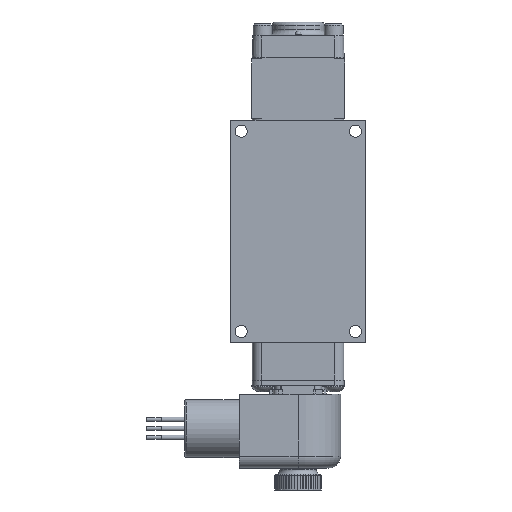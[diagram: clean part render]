
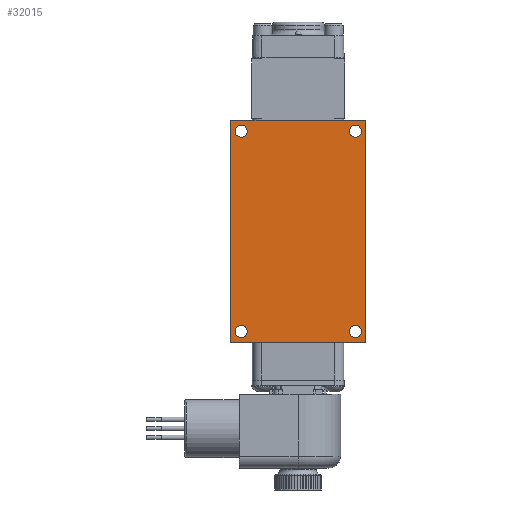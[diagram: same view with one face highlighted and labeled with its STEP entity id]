
A CAD part, front view. The second image highlights one B-rep face of the part: STEP entity #32015.
In plain terms, the highlighted planar face has unit normal (0, -1, 0).
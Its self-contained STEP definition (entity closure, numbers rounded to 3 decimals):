
#1335=FACE_BOUND('',#4763,.T.);
#1336=FACE_BOUND('',#4764,.T.);
#1337=FACE_BOUND('',#4765,.T.);
#1338=FACE_BOUND('',#4766,.T.);
#1743=PLANE('',#34212);
#2835=FACE_OUTER_BOUND('',#4762,.T.);
#4762=EDGE_LOOP('',(#22630,#22631,#22632,#22633));
#4763=EDGE_LOOP('',(#22634));
#4764=EDGE_LOOP('',(#22635));
#4765=EDGE_LOOP('',(#22636));
#4766=EDGE_LOOP('',(#22637));
#6629=CIRCLE('',#34183,0.258);
#6630=CIRCLE('',#34185,0.258);
#6631=CIRCLE('',#34187,0.258);
#6632=CIRCLE('',#34189,0.258);
#8094=LINE('',#46770,#10452);
#8308=LINE('',#47930,#10666);
#8552=LINE('',#49353,#10910);
#8626=LINE('',#50271,#10984);
#10452=VECTOR('',#37825,1.);
#10666=VECTOR('',#38229,1.);
#10910=VECTOR('',#38623,1.);
#10984=VECTOR('',#39083,1.);
#12909=VERTEX_POINT('',#46767);
#12910=VERTEX_POINT('',#46769);
#13111=VERTEX_POINT('',#47929);
#13336=VERTEX_POINT('',#49351);
#13456=VERTEX_POINT('',#50212);
#13457=VERTEX_POINT('',#50216);
#13458=VERTEX_POINT('',#50220);
#13459=VERTEX_POINT('',#50224);
#16007=EDGE_CURVE('',#12909,#12910,#8094,.T.);
#16305=EDGE_CURVE('',#12910,#13111,#8308,.T.);
#16643=EDGE_CURVE('',#13336,#12909,#8552,.T.);
#16829=EDGE_CURVE('',#13456,#13456,#6629,.T.);
#16831=EDGE_CURVE('',#13457,#13457,#6630,.T.);
#16833=EDGE_CURVE('',#13458,#13458,#6631,.T.);
#16835=EDGE_CURVE('',#13459,#13459,#6632,.T.);
#16857=EDGE_CURVE('',#13111,#13336,#8626,.T.);
#22630=ORIENTED_EDGE('',*,*,#16305,.F.);
#22631=ORIENTED_EDGE('',*,*,#16007,.F.);
#22632=ORIENTED_EDGE('',*,*,#16643,.F.);
#22633=ORIENTED_EDGE('',*,*,#16857,.F.);
#22634=ORIENTED_EDGE('',*,*,#16829,.T.);
#22635=ORIENTED_EDGE('',*,*,#16831,.T.);
#22636=ORIENTED_EDGE('',*,*,#16833,.T.);
#22637=ORIENTED_EDGE('',*,*,#16835,.T.);
#32015=ADVANCED_FACE('',(#2835,#1335,#1336,#1337,#1338),#1743,.F.);
#34183=AXIS2_PLACEMENT_3D('',#50214,#39007,#39008);
#34185=AXIS2_PLACEMENT_3D('',#50218,#39012,#39013);
#34187=AXIS2_PLACEMENT_3D('',#50222,#39017,#39018);
#34189=AXIS2_PLACEMENT_3D('',#50226,#39022,#39023);
#34212=AXIS2_PLACEMENT_3D('',#50270,#39081,#39082);
#37825=DIRECTION('',(-1.,0.,0.));
#38229=DIRECTION('',(0.,0.,1.));
#38623=DIRECTION('',(0.,0.,-1.));
#39007=DIRECTION('center_axis',(0.,1.,0.));
#39008=DIRECTION('ref_axis',(-1.,0.,0.));
#39012=DIRECTION('center_axis',(0.,1.,0.));
#39013=DIRECTION('ref_axis',(-1.,0.,0.));
#39017=DIRECTION('center_axis',(0.,1.,0.));
#39018=DIRECTION('ref_axis',(-1.,0.,0.));
#39022=DIRECTION('center_axis',(0.,1.,0.));
#39023=DIRECTION('ref_axis',(-1.,0.,0.));
#39081=DIRECTION('center_axis',(0.,1.,0.));
#39082=DIRECTION('ref_axis',(0.,0.,1.));
#39083=DIRECTION('',(1.,0.,0.));
#46767=CARTESIAN_POINT('',(2.858,-1.636,-4.71));
#46769=CARTESIAN_POINT('',(-2.858,-1.636,-4.71));
#46770=CARTESIAN_POINT('',(2.858,-1.636,-4.71));
#47929=CARTESIAN_POINT('',(-2.858,-1.636,4.71));
#47930=CARTESIAN_POINT('',(-2.858,-1.636,-4.71));
#49351=CARTESIAN_POINT('',(2.858,-1.636,4.71));
#49353=CARTESIAN_POINT('',(2.858,-1.636,4.71));
#50212=CARTESIAN_POINT('',(-2.163,-1.636,-4.247));
#50214=CARTESIAN_POINT('Origin',(-2.421,-1.636,-4.247));
#50216=CARTESIAN_POINT('',(-2.163,-1.636,4.247));
#50218=CARTESIAN_POINT('Origin',(-2.421,-1.636,4.247));
#50220=CARTESIAN_POINT('',(2.678,-1.636,-4.247));
#50222=CARTESIAN_POINT('Origin',(2.421,-1.636,-4.247));
#50224=CARTESIAN_POINT('',(2.678,-1.636,4.247));
#50226=CARTESIAN_POINT('Origin',(2.421,-1.636,4.247));
#50270=CARTESIAN_POINT('Origin',(0.,-1.636,0.));
#50271=CARTESIAN_POINT('',(-2.858,-1.636,4.71));
